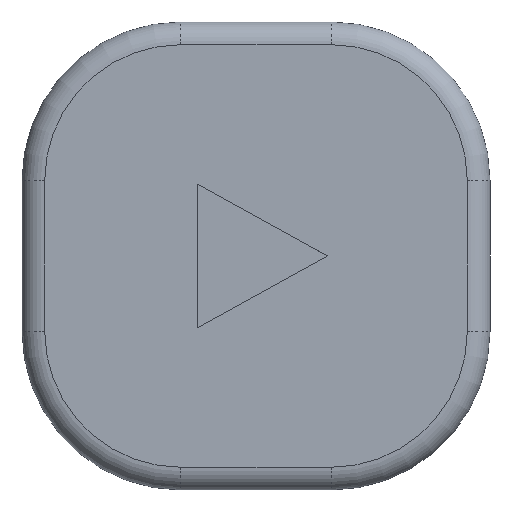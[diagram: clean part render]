
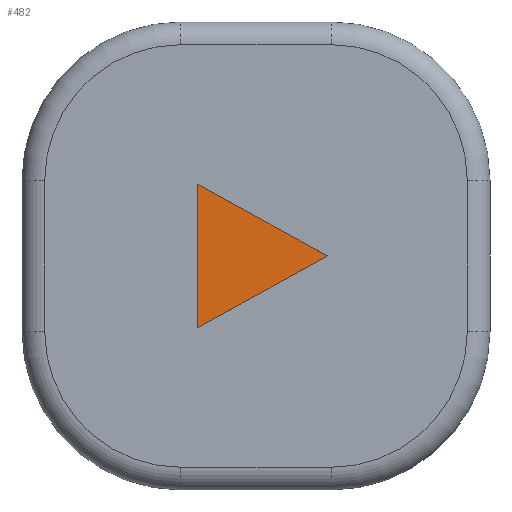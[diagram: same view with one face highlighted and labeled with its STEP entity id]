
A CAD part, top view. The second image highlights one B-rep face of the part: STEP entity #482.
In plain terms, the highlighted planar face has unit normal (0, 0, 1).
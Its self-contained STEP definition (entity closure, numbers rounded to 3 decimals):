
#50 = PLANE('',#51);
#51 = AXIS2_PLACEMENT_3D('',#52,#53,#54);
#52 = CARTESIAN_POINT('',(-3.4,-51.2,0.6));
#53 = DIRECTION('',(-1.,0.,0.));
#54 = DIRECTION('',(0.,1.,0.));
#75 = VERTEX_POINT('',#76);
#76 = CARTESIAN_POINT('',(-3.4,-51.2,0.18));
#90 = PLANE('',#91);
#91 = AXIS2_PLACEMENT_3D('',#92,#93,#94);
#92 = CARTESIAN_POINT('',(4.2,-47.,0.6));
#93 = DIRECTION('',(0.484,-0.875,-0.));
#94 = DIRECTION('',(-0.875,-0.484,0.));
#102 = EDGE_CURVE('',#75,#103,#105,.T.);
#103 = VERTEX_POINT('',#104);
#104 = CARTESIAN_POINT('',(-3.4,-42.8,0.18));
#105 = SURFACE_CURVE('',#106,(#110,#117),.PCURVE_S1.);
#106 = LINE('',#107,#108);
#107 = CARTESIAN_POINT('',(-3.4,-51.2,0.18));
#108 = VECTOR('',#109,1.);
#109 = DIRECTION('',(0.,1.,0.));
#110 = PCURVE('',#50,#111);
#111 = DEFINITIONAL_REPRESENTATION('',(#112),#116);
#112 = LINE('',#113,#114);
#113 = CARTESIAN_POINT('',(0.,0.42));
#114 = VECTOR('',#115,1.);
#115 = DIRECTION('',(1.,0.));
#116 = ( GEOMETRIC_REPRESENTATION_CONTEXT(2) 
PARAMETRIC_REPRESENTATION_CONTEXT() REPRESENTATION_CONTEXT('2D SPACE',''
  ) );
#117 = PCURVE('',#118,#123);
#118 = PLANE('',#119);
#119 = AXIS2_PLACEMENT_3D('',#120,#121,#122);
#120 = CARTESIAN_POINT('',(0.4,-47.,0.18));
#121 = DIRECTION('',(0.,0.,-1.));
#122 = DIRECTION('',(-1.,0.,0.));
#123 = DEFINITIONAL_REPRESENTATION('',(#124),#128);
#124 = LINE('',#125,#126);
#125 = CARTESIAN_POINT('',(3.8,-4.2));
#126 = VECTOR('',#127,1.);
#127 = DIRECTION('',(0.,1.));
#128 = ( GEOMETRIC_REPRESENTATION_CONTEXT(2) 
PARAMETRIC_REPRESENTATION_CONTEXT() REPRESENTATION_CONTEXT('2D SPACE',''
  ) );
#144 = PLANE('',#145);
#145 = AXIS2_PLACEMENT_3D('',#146,#147,#148);
#146 = CARTESIAN_POINT('',(-3.4,-42.8,0.6));
#147 = DIRECTION('',(0.484,0.875,0.));
#148 = DIRECTION('',(0.875,-0.484,-0.));
#439 = VERTEX_POINT('',#440);
#440 = CARTESIAN_POINT('',(4.2,-47.,0.18));
#461 = EDGE_CURVE('',#439,#75,#462,.T.);
#462 = SURFACE_CURVE('',#463,(#467,#474),.PCURVE_S1.);
#463 = LINE('',#464,#465);
#464 = CARTESIAN_POINT('',(4.2,-47.,0.18));
#465 = VECTOR('',#466,1.);
#466 = DIRECTION('',(-0.875,-0.484,0.));
#467 = PCURVE('',#90,#468);
#468 = DEFINITIONAL_REPRESENTATION('',(#469),#473);
#469 = LINE('',#470,#471);
#470 = CARTESIAN_POINT('',(-0.,0.42));
#471 = VECTOR('',#472,1.);
#472 = DIRECTION('',(1.,0.));
#473 = ( GEOMETRIC_REPRESENTATION_CONTEXT(2) 
PARAMETRIC_REPRESENTATION_CONTEXT() REPRESENTATION_CONTEXT('2D SPACE',''
  ) );
#474 = PCURVE('',#118,#475);
#475 = DEFINITIONAL_REPRESENTATION('',(#476),#480);
#476 = LINE('',#477,#478);
#477 = CARTESIAN_POINT('',(-3.8,0.));
#478 = VECTOR('',#479,1.);
#479 = DIRECTION('',(0.875,-0.484));
#480 = ( GEOMETRIC_REPRESENTATION_CONTEXT(2) 
PARAMETRIC_REPRESENTATION_CONTEXT() REPRESENTATION_CONTEXT('2D SPACE',''
  ) );
#482 = ADVANCED_FACE('',(#483),#118,.F.);
#483 = FACE_BOUND('',#484,.T.);
#484 = EDGE_LOOP('',(#485,#486,#507));
#485 = ORIENTED_EDGE('',*,*,#461,.F.);
#486 = ORIENTED_EDGE('',*,*,#487,.F.);
#487 = EDGE_CURVE('',#103,#439,#488,.T.);
#488 = SURFACE_CURVE('',#489,(#493,#500),.PCURVE_S1.);
#489 = LINE('',#490,#491);
#490 = CARTESIAN_POINT('',(-3.4,-42.8,0.18));
#491 = VECTOR('',#492,1.);
#492 = DIRECTION('',(0.875,-0.484,-0.));
#493 = PCURVE('',#118,#494);
#494 = DEFINITIONAL_REPRESENTATION('',(#495),#499);
#495 = LINE('',#496,#497);
#496 = CARTESIAN_POINT('',(3.8,4.2));
#497 = VECTOR('',#498,1.);
#498 = DIRECTION('',(-0.875,-0.484));
#499 = ( GEOMETRIC_REPRESENTATION_CONTEXT(2) 
PARAMETRIC_REPRESENTATION_CONTEXT() REPRESENTATION_CONTEXT('2D SPACE',''
  ) );
#500 = PCURVE('',#144,#501);
#501 = DEFINITIONAL_REPRESENTATION('',(#502),#506);
#502 = LINE('',#503,#504);
#503 = CARTESIAN_POINT('',(0.,0.42));
#504 = VECTOR('',#505,1.);
#505 = DIRECTION('',(1.,0.));
#506 = ( GEOMETRIC_REPRESENTATION_CONTEXT(2) 
PARAMETRIC_REPRESENTATION_CONTEXT() REPRESENTATION_CONTEXT('2D SPACE',''
  ) );
#507 = ORIENTED_EDGE('',*,*,#102,.F.);
